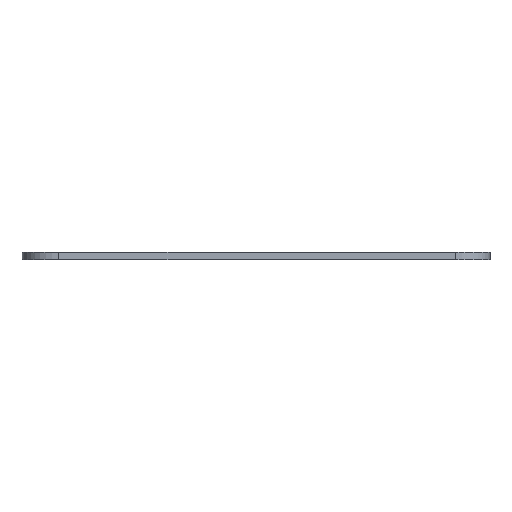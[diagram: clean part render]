
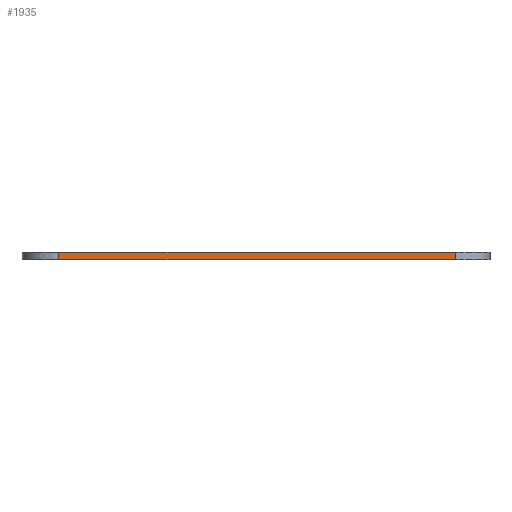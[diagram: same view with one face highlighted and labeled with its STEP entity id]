
A CAD part, front view. The second image highlights one B-rep face of the part: STEP entity #1935.
In plain terms, the highlighted planar face has unit normal (0, -1, 0).
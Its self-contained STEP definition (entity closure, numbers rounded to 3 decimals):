
#72 = PLANE('',#73);
#73 = AXIS2_PLACEMENT_3D('',#74,#75,#76);
#74 = CARTESIAN_POINT('',(50.497,82.804,1.6));
#75 = DIRECTION('',(0.,0.,1.));
#76 = DIRECTION('',(1.,0.,-0.));
#126 = PLANE('',#127);
#127 = AXIS2_PLACEMENT_3D('',#128,#129,#130);
#128 = CARTESIAN_POINT('',(50.497,82.804,0.));
#129 = DIRECTION('',(0.,0.,1.));
#130 = DIRECTION('',(1.,0.,-0.));
#323 = VERTEX_POINT('',#324);
#324 = CARTESIAN_POINT('',(7.938,0.,0.));
#339 = CYLINDRICAL_SURFACE('',#340,7.938);
#340 = AXIS2_PLACEMENT_3D('',#341,#342,#343);
#341 = CARTESIAN_POINT('',(7.938,7.938,0.));
#342 = DIRECTION('',(-0.,-0.,-1.));
#343 = DIRECTION('',(1.,0.,-0.));
#351 = EDGE_CURVE('',#323,#352,#354,.T.);
#352 = VERTEX_POINT('',#353);
#353 = CARTESIAN_POINT('',(93.577,0.,0.));
#354 = SURFACE_CURVE('',#355,(#359,#366),.PCURVE_S1.);
#355 = LINE('',#356,#357);
#356 = CARTESIAN_POINT('',(7.938,0.,0.));
#357 = VECTOR('',#358,1.);
#358 = DIRECTION('',(1.,0.,0.));
#359 = PCURVE('',#126,#360);
#360 = DEFINITIONAL_REPRESENTATION('',(#361),#365);
#361 = LINE('',#362,#363);
#362 = CARTESIAN_POINT('',(-42.559,-82.804));
#363 = VECTOR('',#364,1.);
#364 = DIRECTION('',(1.,0.));
#365 = ( GEOMETRIC_REPRESENTATION_CONTEXT(2) 
PARAMETRIC_REPRESENTATION_CONTEXT() REPRESENTATION_CONTEXT('2D SPACE',''
  ) );
#366 = PCURVE('',#367,#372);
#367 = PLANE('',#368);
#368 = AXIS2_PLACEMENT_3D('',#369,#370,#371);
#369 = CARTESIAN_POINT('',(7.938,0.,0.));
#370 = DIRECTION('',(0.,1.,0.));
#371 = DIRECTION('',(1.,0.,0.));
#372 = DEFINITIONAL_REPRESENTATION('',(#373),#377);
#373 = LINE('',#374,#375);
#374 = CARTESIAN_POINT('',(0.,0.));
#375 = VECTOR('',#376,1.);
#376 = DIRECTION('',(1.,0.));
#377 = ( GEOMETRIC_REPRESENTATION_CONTEXT(2) 
PARAMETRIC_REPRESENTATION_CONTEXT() REPRESENTATION_CONTEXT('2D SPACE',''
  ) );
#396 = CYLINDRICAL_SURFACE('',#397,7.428);
#397 = AXIS2_PLACEMENT_3D('',#398,#399,#400);
#398 = CARTESIAN_POINT('',(93.577,7.428,0.));
#399 = DIRECTION('',(-0.,-0.,-1.));
#400 = DIRECTION('',(1.,0.,-0.));
#1139 = VERTEX_POINT('',#1140);
#1140 = CARTESIAN_POINT('',(7.938,0.,1.6));
#1162 = EDGE_CURVE('',#1139,#1163,#1165,.T.);
#1163 = VERTEX_POINT('',#1164);
#1164 = CARTESIAN_POINT('',(93.577,0.,1.6));
#1165 = SURFACE_CURVE('',#1166,(#1170,#1177),.PCURVE_S1.);
#1166 = LINE('',#1167,#1168);
#1167 = CARTESIAN_POINT('',(7.938,0.,1.6));
#1168 = VECTOR('',#1169,1.);
#1169 = DIRECTION('',(1.,0.,0.));
#1170 = PCURVE('',#72,#1171);
#1171 = DEFINITIONAL_REPRESENTATION('',(#1172),#1176);
#1172 = LINE('',#1173,#1174);
#1173 = CARTESIAN_POINT('',(-42.559,-82.804));
#1174 = VECTOR('',#1175,1.);
#1175 = DIRECTION('',(1.,0.));
#1176 = ( GEOMETRIC_REPRESENTATION_CONTEXT(2) 
PARAMETRIC_REPRESENTATION_CONTEXT() REPRESENTATION_CONTEXT('2D SPACE',''
  ) );
#1177 = PCURVE('',#367,#1178);
#1178 = DEFINITIONAL_REPRESENTATION('',(#1179),#1183);
#1179 = LINE('',#1180,#1181);
#1180 = CARTESIAN_POINT('',(0.,-1.6));
#1181 = VECTOR('',#1182,1.);
#1182 = DIRECTION('',(1.,0.));
#1183 = ( GEOMETRIC_REPRESENTATION_CONTEXT(2) 
PARAMETRIC_REPRESENTATION_CONTEXT() REPRESENTATION_CONTEXT('2D SPACE',''
  ) );
#1887 = EDGE_CURVE('',#323,#1139,#1888,.T.);
#1888 = SURFACE_CURVE('',#1889,(#1893,#1900),.PCURVE_S1.);
#1889 = LINE('',#1890,#1891);
#1890 = CARTESIAN_POINT('',(7.938,0.,0.));
#1891 = VECTOR('',#1892,1.);
#1892 = DIRECTION('',(0.,0.,1.));
#1893 = PCURVE('',#339,#1894);
#1894 = DEFINITIONAL_REPRESENTATION('',(#1895),#1899);
#1895 = LINE('',#1896,#1897);
#1896 = CARTESIAN_POINT('',(-4.712,0.));
#1897 = VECTOR('',#1898,1.);
#1898 = DIRECTION('',(-0.,-1.));
#1899 = ( GEOMETRIC_REPRESENTATION_CONTEXT(2) 
PARAMETRIC_REPRESENTATION_CONTEXT() REPRESENTATION_CONTEXT('2D SPACE',''
  ) );
#1900 = PCURVE('',#367,#1901);
#1901 = DEFINITIONAL_REPRESENTATION('',(#1902),#1906);
#1902 = LINE('',#1903,#1904);
#1903 = CARTESIAN_POINT('',(0.,0.));
#1904 = VECTOR('',#1905,1.);
#1905 = DIRECTION('',(0.,-1.));
#1906 = ( GEOMETRIC_REPRESENTATION_CONTEXT(2) 
PARAMETRIC_REPRESENTATION_CONTEXT() REPRESENTATION_CONTEXT('2D SPACE',''
  ) );
#1935 = ADVANCED_FACE('',(#1936),#367,.F.);
#1936 = FACE_BOUND('',#1937,.F.);
#1937 = EDGE_LOOP('',(#1938,#1939,#1940,#1961));
#1938 = ORIENTED_EDGE('',*,*,#1887,.T.);
#1939 = ORIENTED_EDGE('',*,*,#1162,.T.);
#1940 = ORIENTED_EDGE('',*,*,#1941,.F.);
#1941 = EDGE_CURVE('',#352,#1163,#1942,.T.);
#1942 = SURFACE_CURVE('',#1943,(#1947,#1954),.PCURVE_S1.);
#1943 = LINE('',#1944,#1945);
#1944 = CARTESIAN_POINT('',(93.577,0.,0.));
#1945 = VECTOR('',#1946,1.);
#1946 = DIRECTION('',(0.,0.,1.));
#1947 = PCURVE('',#367,#1948);
#1948 = DEFINITIONAL_REPRESENTATION('',(#1949),#1953);
#1949 = LINE('',#1950,#1951);
#1950 = CARTESIAN_POINT('',(85.64,0.));
#1951 = VECTOR('',#1952,1.);
#1952 = DIRECTION('',(0.,-1.));
#1953 = ( GEOMETRIC_REPRESENTATION_CONTEXT(2) 
PARAMETRIC_REPRESENTATION_CONTEXT() REPRESENTATION_CONTEXT('2D SPACE',''
  ) );
#1954 = PCURVE('',#396,#1955);
#1955 = DEFINITIONAL_REPRESENTATION('',(#1956),#1960);
#1956 = LINE('',#1957,#1958);
#1957 = CARTESIAN_POINT('',(-4.712,0.));
#1958 = VECTOR('',#1959,1.);
#1959 = DIRECTION('',(-0.,-1.));
#1960 = ( GEOMETRIC_REPRESENTATION_CONTEXT(2) 
PARAMETRIC_REPRESENTATION_CONTEXT() REPRESENTATION_CONTEXT('2D SPACE',''
  ) );
#1961 = ORIENTED_EDGE('',*,*,#351,.F.);
